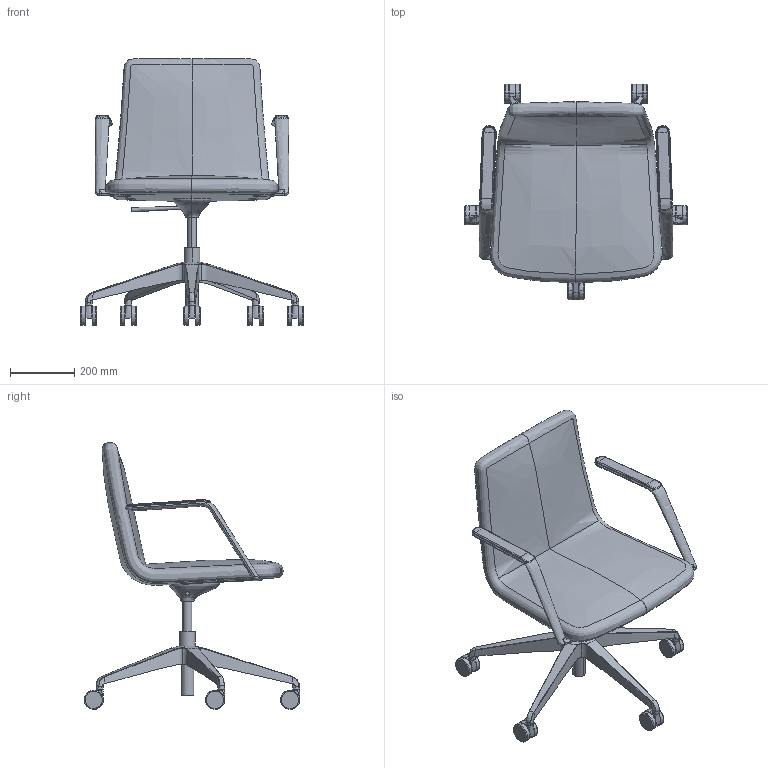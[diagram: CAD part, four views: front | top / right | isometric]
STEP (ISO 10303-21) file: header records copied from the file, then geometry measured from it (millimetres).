
FILE_DESCRIPTION(/* description */ (''),/* implementation_level */ '2;1');
FILE_NAME(/* name */ 'HARMON~4',/* time_stamp */ '2016-09-30T16:42:48+02:00',/* author */ (''),/* organization */ (''),/* preprocessor_version */ 'ST-DEVELOPER v15',/* originating_system */ '',/* authorisation */ '');
FILE_SCHEMA (('CONFIG_CONTROL_DESIGN'));
Length unit declared in the file: millimetre
Products named in the file (1): Document
Bounding box: 694.82 x 673.73 x 833.81 mm (x, y, z)
Volume: 24181151.6 mm3; surface area: 1389719.1 mm2
Topology: 2 solids, 36 shells, 333 faces, 789 edges, 456 vertices
Faces by surface type: bspline 268, plane 65
Entity records: 23092 total; most frequent: CARTESIAN_POINT 18724, ORIENTED_EDGE 1380, EDGE_CURVE 757, VERTEX_POINT 450, ADVANCED_FACE 333, FACE_OUTER_BOUND 333, EDGE_LOOP 333, B_SPLINE_CURVE_WITH_KNOTS 333
